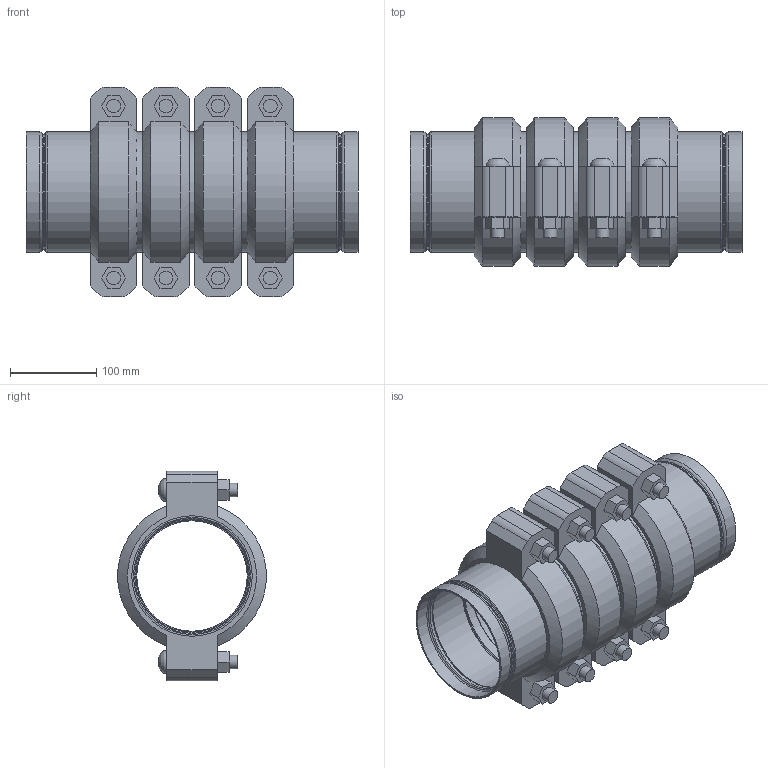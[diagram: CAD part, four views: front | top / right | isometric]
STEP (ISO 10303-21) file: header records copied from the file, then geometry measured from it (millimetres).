
FILE_DESCRIPTION(/* description */ ('VIC STRENGTHIN 100 EXPANSION JOINT 4 COUPLINGS COMPRESSED STYLE E155 (ST1)','CAx-IF Rec.Pracs.---Representation and Presentation of Product Manufacturing Information (PMI)---4.0---2014-10-13'),/* implementation_level */ '2;1');
FILE_NAME(/* name */ 'C:\Users\Vjadhav\AppData\Roaming\Autodesk\ApplicationPlugins\Victaulic.Temp\A975\Victaulic_SS-StrengThin 100_Expansion Joint_Compressed_4 Couplings_Style E155 (ST1)_05.0 (139.7) (125).stp',/* time_stamp */ '2021-07-23T12:31:34+05:00',/* author */ ('kkamble'),/* organization */ ('Victaulic'),/* preprocessor_version */ 'ST-DEVELOPER v17.2',/* originating_system */ 'Autodesk Inventor 2019',/* authorisation */ '');
FILE_SCHEMA (('AP242_MANAGED_MODEL_BASED_3D_ENGINEERING_MIM_LF { 1 0 10303 442 1 1 4 }'));
Length unit declared in the file: inch
Products named in the file (4): E155-05.0 (139.7); E494G-05.0 (139.7); Nipple-05.0 (139.7); 075-05.0 (139.7)
Assembly tree (9 placements, depth 2):
  E155-05.0 (139.7)
    E494G-05.0 (139.7)  x2
    Nipple-05.0 (139.7)  x3
    075-05.0 (139.7)  x4
Bounding box: 385.32 x 172.14 x 243.59 mm (x, y, z)
Volume: 3100792.4 mm3; surface area: 747083 mm2
Topology: 9 solids, 17 shells, 316 faces, 820 edges, 582 vertices
Faces by surface type: plane 166, cylinder 90, torus 32, cone 20, bspline 8
Full cylindrical faces by diameter (mm): 15.875 x16, 17.424 x8, 128.194 x3, 130.505 x2, 131.47 x2, 134.518 x2, 135.484 x8, 135.687 x6, 139.7 x19
Entity records: 3631 total; most frequent: DIRECTION 643, CARTESIAN_POINT 641, ORIENTED_EDGE 536, AXIS2_PLACEMENT_3D 273, EDGE_CURVE 268, VERTEX_POINT 193, CIRCLE 163, EDGE_LOOP 123
